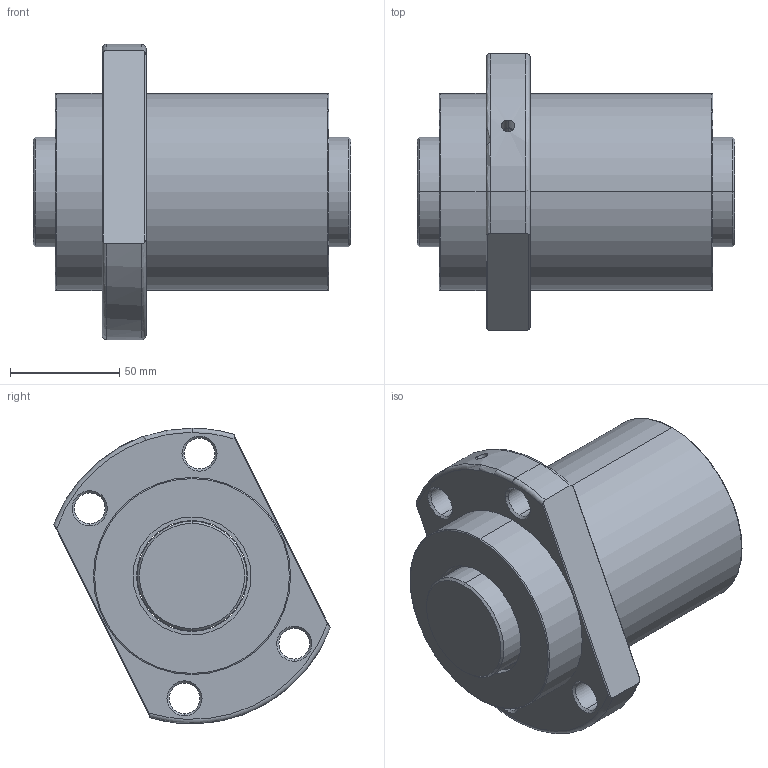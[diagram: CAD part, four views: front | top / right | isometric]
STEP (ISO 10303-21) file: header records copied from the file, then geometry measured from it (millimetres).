
FILE_DESCRIPTION (( 'STEP AP203' ), '1' );
FILE_NAME ('SFTER05050A2D-C.STEP', '2020-06-18T01:59:09', ( '' ), ( '' ), 'SwSTEP 2.0', 'SolidWorks 2013', '' );
FILE_SCHEMA (( 'CONFIG_CONTROL_DESIGN' ));
Length unit declared in the file: millimetre
Products named in the file (1): SFTER05050A2D-C
Bounding box: 145 x 126.42 x 135 mm (x, y, z)
Volume: 881789.9 mm3; surface area: 107929.2 mm2
Topology: 2 solids, 4 shells, 90 faces, 202 edges, 127 vertices
Faces by surface type: cylinder 39, plane 21, cone 20, torus 10
Entity records: 3307 total; most frequent: CARTESIAN_POINT 1147, DIRECTION 465, ORIENTED_EDGE 404, EDGE_CURVE 202, AXIS2_PLACEMENT_3D 198, VERTEX_POINT 127, EDGE_LOOP 113, CIRCLE 107
